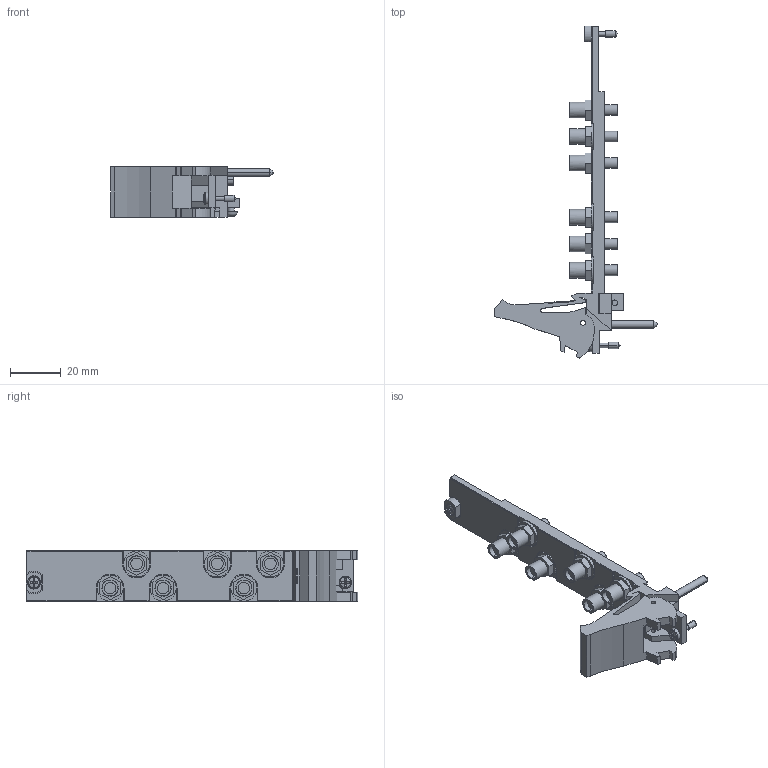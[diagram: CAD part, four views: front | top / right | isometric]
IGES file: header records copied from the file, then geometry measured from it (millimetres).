
Start section:  PTC IGES file: cu_pxi-2549.igs
Global section: file name: cu_pxi-2549.igs; native system: Pro/ENGINEER by Parametric Technology Corporation; preprocessor: 2006080; author: jjorden; organization: Unknown; date: 091110.100833; units: inch
Bounding box: 63.73 x 130.43 x 20.02 mm (x, y, z)
Surface area: 15859.1 mm2 (no closed solid volume)
Topology: 0 solids, 0 shells, 655 faces, 3328 edges, 3320 vertices
Faces by surface type: bspline 416, revolution 239
